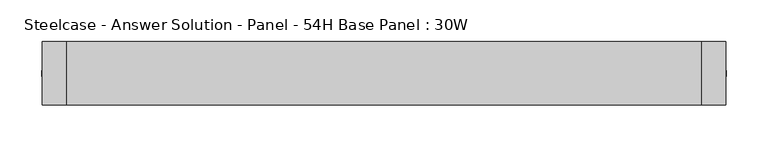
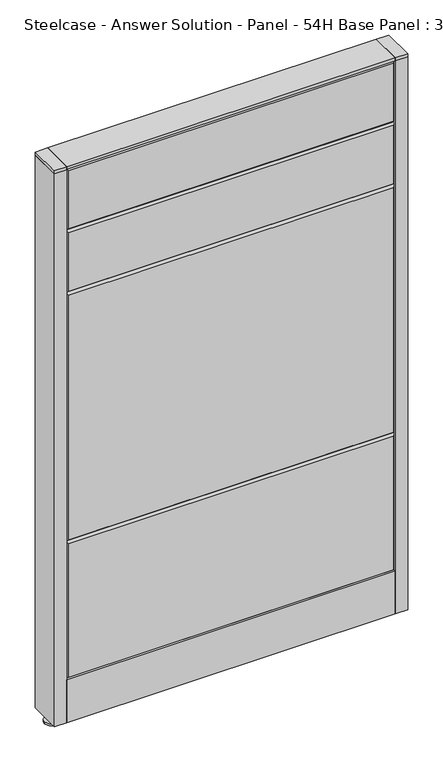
"""IFC4 building model written with IfcOpenShell, lengths in millimetres: furniture geometry, Steelcase - Answer Solution - Panel - 54H Base Panel : 30W."""

from ifc_helpers import new_model, si_unit, point, frame, frame_2d, origin, place, context, project, spatial, polyline, circle_curve, trimmed, segment, composite_curve, outline, extrude, faceted_brep, source, transform, mapped, element, save


def steelcase_answer_solution_panel_54h_base_panel_30w_a0d78459(model_context):
    return source(origin(), model_context, "Body", "SolidModel", [
        extrude(outline(composite_curve([segment(trimmed(circle_curve(frame_2d((395.224, 0.0320214)), 5.08), [point((400.304, 0.0320214))], [point((390.144, 0.0320214))], False, "CARTESIAN"), True, "CONTINUOUS"), segment(trimmed(circle_curve(frame_2d((395.224, 0.0320214)), 5.08), [point((390.144, 0.0320214))], [point((400.304, 0.0320214))], False, "CARTESIAN"), True, "CONTINUOUS")], self_intersect=False)), frame((0.0, 0.0, 5.0799671), z_axis=(0.0, 0.0, 1.0), x_axis=(1.0, 0.0, 0.0)), (0.0, 0.0, 1.0), 10.414),
        extrude(outline(composite_curve([segment(trimmed(circle_curve(frame_2d((395.224, 0.0320214)), 15.24), [point((410.464, 0.0320214))], [point((379.984, 0.0320214))], False, "CARTESIAN"), True, "CONTINUOUS"), segment(trimmed(circle_curve(frame_2d((395.224, 0.0320214)), 15.24), [point((379.984, 0.0320214))], [point((410.464, 0.0320214))], False, "CARTESIAN"), True, "CONTINUOUS")], self_intersect=False)), frame((0.0, 0.0, -3.29e-05), z_axis=(0.0, 0.0, 1.0), x_axis=(1.0, 0.0, 0.0)), (0.0, 0.0, 1.0), 5.08),
        extrude(outline(polyline([(409.575, 38.1320408), (409.575, -38.0679592), (381.0, -38.0679592), (381.0, 38.1320408), (409.575, 38.1320408)])), frame((0.0, 0.0, 1370.6348), z_axis=(0.0, 0.0, 1.0), x_axis=(1.0, 0.0, 0.0)), (0.0, 0.0, 1.0), 7.3151671),
        extrude(outline(polyline([(409.575, 38.1320408), (409.575, -38.0679592), (381.0, -38.0679592), (381.0, 38.1320408), (409.575, 38.1320408)])), frame((0.0, 0.0, 15.4939671), z_axis=(0.0, 0.0, 1.0), x_axis=(1.0, 0.0, 0.0)), (0.0, 0.0, 1.0), 1355.1408329),
        extrude(outline(composite_curve([segment(trimmed(circle_curve(frame_2d((-395.224, 0.0320214)), 5.08), [point((-400.304, 0.0320214))], [point((-390.144, 0.0320214))], False, "CARTESIAN"), True, "CONTINUOUS"), segment(trimmed(circle_curve(frame_2d((-395.224, 0.0320214)), 5.08), [point((-390.144, 0.0320214))], [point((-400.304, 0.0320214))], False, "CARTESIAN"), True, "CONTINUOUS")], self_intersect=False)), frame((0.0, 0.0, 5.0799671), z_axis=(0.0, 0.0, 1.0), x_axis=(1.0, 0.0, 0.0)), (0.0, 0.0, 1.0), 10.414),
        extrude(outline(composite_curve([segment(trimmed(circle_curve(frame_2d((-395.224, 0.0320214)), 15.24), [point((-410.464, 0.0320214))], [point((-379.984, 0.0320214))], False, "CARTESIAN"), True, "CONTINUOUS"), segment(trimmed(circle_curve(frame_2d((-395.224, 0.0320214)), 15.24), [point((-379.984, 0.0320214))], [point((-410.464, 0.0320214))], False, "CARTESIAN"), True, "CONTINUOUS")], self_intersect=False)), frame((0.0, 0.0, -3.29e-05), z_axis=(0.0, 0.0, 1.0), x_axis=(1.0, 0.0, 0.0)), (0.0, 0.0, 1.0), 5.08),
        extrude(outline(polyline([(-409.575, 38.1320408), (-381.0, 38.1320408), (-381.0, -38.0679592), (-409.575, -38.0679592), (-409.575, 38.1320408)])), frame((0.0, 0.0, 1370.6348), z_axis=(0.0, 0.0, 1.0), x_axis=(1.0, 0.0, 0.0)), (0.0, 0.0, 1.0), 7.3151671),
        extrude(outline(polyline([(-409.575, 38.1320408), (-381.0, 38.1320408), (-381.0, -38.0679592), (-409.575, -38.0679592), (-409.575, 38.1320408)])), frame((0.0, 0.0, 15.4939671), z_axis=(0.0, 0.0, 1.0), x_axis=(1.0, 0.0, 0.0)), (0.0, 0.0, 1.0), 1355.1408329),
        faceted_brep([(-376.174, 38.1635011, 1366.774), (376.174, 38.1635011, 1366.774), (376.174, 38.1635011, 1224.026), (-376.174, 38.1635011, 1224.026), (-381.0, 33.3375011, 1371.6), (-381.0, 33.3375011, 1219.2), (381.0, 33.3375011, 1219.2), (381.0, 33.3375011, 1371.6)], [[[0, 1, 2, 3]], [[4, 5, 6, 7]], [[4, 7, 1, 0]], [[7, 6, 2, 1]], [[6, 5, 3, 2]], [[5, 4, 0, 3]]]),
        faceted_brep([(-376.174, 38.1635011, 1214.374), (376.174, 38.1635011, 1214.374), (376.174, 38.1635011, 1071.626), (-376.174, 38.1635011, 1071.626), (-381.0, 33.3375011, 1219.2), (-381.0, 33.3375011, 1066.8), (381.0, 33.3375011, 1066.8), (381.0, 33.3375011, 1219.2)], [[[0, 1, 2, 3]], [[4, 5, 6, 7]], [[4, 7, 1, 0]], [[7, 6, 2, 1]], [[6, 5, 3, 2]], [[5, 4, 0, 3]]]),
        faceted_brep([(-376.174, 38.1635011, 1061.974), (376.174, 38.1635011, 1061.974), (376.174, 38.1635011, 462.026), (-376.174, 38.1635011, 462.026), (-381.0, 33.3375011, 1066.8), (-381.0, 33.3375011, 457.2), (381.0, 33.3375011, 457.2), (381.0, 33.3375011, 1066.8)], [[[0, 1, 2, 3]], [[4, 5, 6, 7]], [[4, 7, 1, 0]], [[7, 6, 2, 1]], [[6, 5, 3, 2]], [[5, 4, 0, 3]]]),
        faceted_brep([(-376.174, 38.1635011, 452.374), (376.174, 38.1635011, 452.374), (376.174, 38.1635011, 125.476), (-376.174, 38.1635011, 125.476), (-381.0, 33.3375011, 457.2), (-381.0, 33.3375011, 120.65), (381.0, 33.3375011, 120.65), (381.0, 33.3375011, 457.2)], [[[0, 1, 2, 3]], [[4, 5, 6, 7]], [[4, 7, 1, 0]], [[7, 6, 2, 1]], [[6, 5, 3, 2]], [[5, 4, 0, 3]]]),
        faceted_brep([(376.174, -38.1635011, 1366.774), (-376.174, -38.1635011, 1366.774), (-376.174, -38.1635011, 1224.026), (376.174, -38.1635011, 1224.026), (381.0, -33.3375011, 1371.6), (381.0, -33.3375011, 1219.2), (-381.0, -33.3375011, 1219.2), (-381.0, -33.3375011, 1371.6)], [[[0, 1, 2, 3]], [[4, 5, 6, 7]], [[4, 7, 1, 0]], [[7, 6, 2, 1]], [[6, 5, 3, 2]], [[5, 4, 0, 3]]]),
        faceted_brep([(376.174, -38.1635011, 1214.374), (-376.174, -38.1635011, 1214.374), (-376.174, -38.1635011, 1071.626), (376.174, -38.1635011, 1071.626), (381.0, -33.3375011, 1219.2), (381.0, -33.3375011, 1066.8), (-381.0, -33.3375011, 1066.8), (-381.0, -33.3375011, 1219.2)], [[[0, 1, 2, 3]], [[4, 5, 6, 7]], [[4, 7, 1, 0]], [[7, 6, 2, 1]], [[6, 5, 3, 2]], [[5, 4, 0, 3]]]),
        faceted_brep([(376.174, -38.1635011, 1061.974), (-376.174, -38.1635011, 1061.974), (-376.174, -38.1635011, 462.026), (376.174, -38.1635011, 462.026), (381.0, -33.3375011, 1066.8), (381.0, -33.3375011, 457.2), (-381.0, -33.3375011, 457.2), (-381.0, -33.3375011, 1066.8)], [[[0, 1, 2, 3]], [[4, 5, 6, 7]], [[4, 7, 1, 0]], [[7, 6, 2, 1]], [[6, 5, 3, 2]], [[5, 4, 0, 3]]]),
        faceted_brep([(376.174, -38.1635011, 452.374), (-376.174, -38.1635011, 452.374), (-376.174, -38.1635011, 125.476), (376.174, -38.1635011, 125.476), (381.0, -33.3375011, 457.2), (381.0, -33.3375011, 120.65), (-381.0, -33.3375011, 120.65), (-381.0, -33.3375011, 457.2)], [[[0, 1, 2, 3]], [[4, 5, 6, 7]], [[4, 7, 1, 0]], [[7, 6, 2, 1]], [[6, 5, 3, 2]], [[5, 4, 0, 3]]]),
        extrude(outline(polyline([(381.0, 38.1000194), (381.0, -38.1000194), (-381.0, -38.1000194), (-381.0, 38.1000194), (381.0, 38.1000194)])), frame((0.0, 0.0, 1371.6), z_axis=(0.0, 0.0, 1.0), x_axis=(1.0, 0.0, 0.0)), (0.0, 0.0, 1.0), 6.35),
        extrude(outline(polyline([(25.4000011, 119.8575157), (25.4000011, 120.65), (38.1000194, 120.65), (38.1000194, 15.494), (37.3075215, 15.494), (37.3075215, 119.8575157), (25.4000011, 119.8575157)])), frame((-381.0, 0.0, 0.0), z_axis=(1.0, 0.0, 0.0), x_axis=(0.0, 1.0, 0.0)), (0.0, 0.0, 1.0), 762.0),
        extrude(outline(polyline([(-25.4000011, 119.8575157), (-37.3075215, 119.8575157), (-37.3075215, 15.494), (-38.1000194, 15.494), (-38.1000194, 120.65), (-25.4000011, 120.65), (-25.4000011, 119.8575157)])), frame((-381.0, 0.0, 0.0), z_axis=(1.0, 0.0, 0.0), x_axis=(0.0, 1.0, 0.0)), (0.0, 0.0, 1.0), 762.0),
    ])


if __name__ == "__main__":
    model = new_model("IFC4")
    model_context = context("Model", 3, world=origin())
    ifc_project = project(units=[si_unit("LENGTHUNIT", "METRE", prefix="MILLI")], contexts=[model_context])
    site = spatial("IfcSite", under=ifc_project)
    building = spatial("IfcBuilding", under=site)
    placement = place(None, origin())
    steelcase_answer_solution_panel_54h_base_panel_30w_shape = steelcase_answer_solution_panel_54h_base_panel_30w_a0d78459(model_context)
    element("IfcFurniture", 1, ObjectType="Steelcase - Answer Solution - Panel - 54H Base Panel : 30W", at=placement, inside=building, context=model_context, shape_type="MappedRepresentation", body=[
        mapped(steelcase_answer_solution_panel_54h_base_panel_30w_shape, transform((0.0, 0.0, 0.0), x_axis=(1.0, 0.0, 0.0), y_axis=(0.0, 1.0, 0.0), z_axis=(0.0, 0.0, 1.0))),
    ])
    save(model, "model.ifc")
